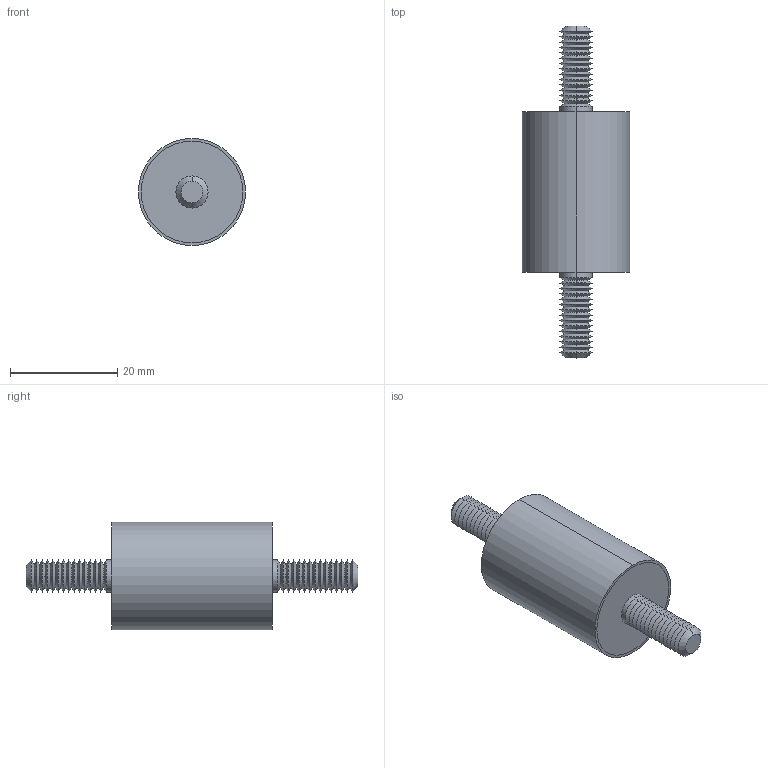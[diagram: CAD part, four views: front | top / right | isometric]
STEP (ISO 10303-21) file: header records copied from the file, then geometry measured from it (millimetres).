
FILE_DESCRIPTION (( 'STEP AP203' ), '1' );
FILE_NAME ('61040.W0207.step', '2019-09-24T22:31:17', ( '' ), ( '' ), 'SwSTEP 2.0', 'SolidWorks 2017', '' );
FILE_SCHEMA (( 'CONFIG_CONTROL_DESIGN' ));
Length unit declared in the file: millimetre
Products named in the file (4): Part3_61040.W0207; 61040.W0207; Part2_61040.W0207; Part1_61040.W0207
Assembly tree (3 placements, depth 2):
  61040.W0207
    Part1_61040.W0207
    Part2_61040.W0207
    Part3_61040.W0207
Bounding box: 20 x 62 x 20 mm (x, y, z)
Volume: 10106.3 mm3; surface area: 4840.1 mm2
Topology: 3 solids, 3 shells, 140 faces, 274 edges, 144 vertices
Faces by surface type: cone 116, cylinder 14, plane 10
Entity records: 3908 total; most frequent: DIRECTION 710, CARTESIAN_POINT 564, ORIENTED_EDGE 548, AXIS2_PLACEMENT_3D 290, EDGE_CURVE 274, VERTEX_POINT 144, EDGE_LOOP 144, CIRCLE 144
